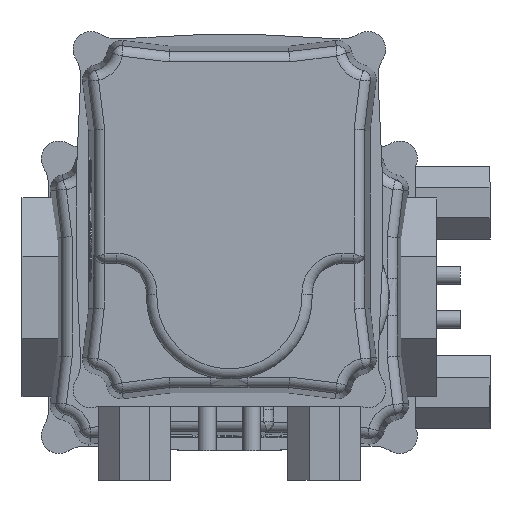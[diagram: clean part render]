
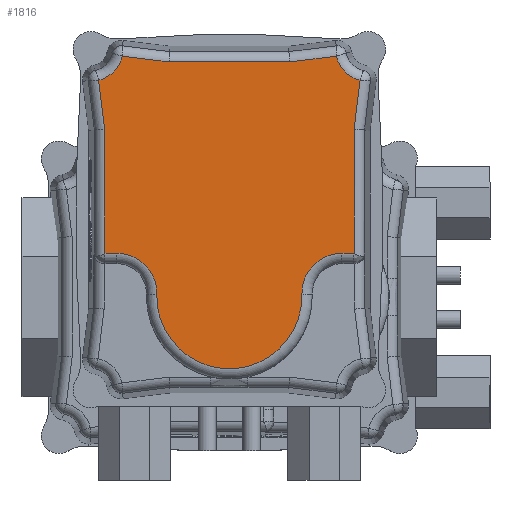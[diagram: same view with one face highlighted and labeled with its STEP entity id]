
A CAD part, top view. The second image highlights one B-rep face of the part: STEP entity #1816.
In plain terms, the highlighted planar face has unit normal (0, 0, 1).
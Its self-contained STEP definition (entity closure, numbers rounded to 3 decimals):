
#1816 = ADVANCED_FACE( '', ( #3851 ), #3852, .T. );
#3851 = FACE_OUTER_BOUND( '', #11624, .T. );
#3852 = PLANE( '', #11625 );
#11624 = EDGE_LOOP( '', ( #17599, #17600, #17601, #17602, #17603, #17604, #17605, #17606, #17607, #17608, #17609, #17610, #17611, #17612, #17613, #17614 ) );
#11625 = AXIS2_PLACEMENT_3D( '', #17615, #17616, #17617 );
#17599 = ORIENTED_EDGE( '', *, *, #20271, .T. );
#17600 = ORIENTED_EDGE( '', *, *, #19710, .T. );
#17601 = ORIENTED_EDGE( '', *, *, #20108, .T. );
#17602 = ORIENTED_EDGE( '', *, *, #20221, .T. );
#17603 = ORIENTED_EDGE( '', *, *, #20540, .T. );
#17604 = ORIENTED_EDGE( '', *, *, #20507, .T. );
#17605 = ORIENTED_EDGE( '', *, *, #20112, .T. );
#17606 = ORIENTED_EDGE( '', *, *, #20275, .T. );
#17607 = ORIENTED_EDGE( '', *, *, #20032, .T. );
#17608 = ORIENTED_EDGE( '', *, *, #19353, .T. );
#17609 = ORIENTED_EDGE( '', *, *, #20155, .T. );
#17610 = ORIENTED_EDGE( '', *, *, #20541, .T. );
#17611 = ORIENTED_EDGE( '', *, *, #20443, .T. );
#17612 = ORIENTED_EDGE( '', *, *, #20516, .T. );
#17613 = ORIENTED_EDGE( '', *, *, #19562, .T. );
#17614 = ORIENTED_EDGE( '', *, *, #20402, .T. );
#17615 = CARTESIAN_POINT( '', ( 47.227, -44.578, 84. ) );
#17616 = DIRECTION( '', ( 0., 0., 1. ) );
#17617 = DIRECTION( '', ( 1., 0., 0. ) );
#19353 = EDGE_CURVE( '', #22185, #22187, #22189, .F. );
#19562 = EDGE_CURVE( '', #22513, #20743, #22517, .F. );
#19710 = EDGE_CURVE( '', #22731, #22455, #22734, .T. );
#20032 = EDGE_CURVE( '', #23190, #22185, #23191, .T. );
#20108 = EDGE_CURVE( '', #22455, #23283, #23285, .F. );
#20112 = EDGE_CURVE( '', #23290, #23288, #23291, .T. );
#20155 = EDGE_CURVE( '', #22187, #23345, #23347, .T. );
#20221 = EDGE_CURVE( '', #23283, #23430, #23432, .T. );
#20271 = EDGE_CURVE( '', #23490, #22731, #23492, .T. );
#20275 = EDGE_CURVE( '', #23288, #23190, #23496, .F. );
#20402 = EDGE_CURVE( '', #20743, #23490, #23644, .T. );
#20443 = EDGE_CURVE( '', #23685, #23687, #23689, .T. );
#20507 = EDGE_CURVE( '', #23755, #23290, #23756, .T. );
#20516 = EDGE_CURVE( '', #23687, #22513, #23765, .T. );
#20540 = EDGE_CURVE( '', #23430, #23755, #23792, .T. );
#20541 = EDGE_CURVE( '', #23345, #23685, #23793, .T. );
#20743 = VERTEX_POINT( '', #24108 );
#22185 = VERTEX_POINT( '', #27459 );
#22187 = VERTEX_POINT( '', #27461 );
#22189 = CIRCLE( '', #27463, 13.5 );
#22455 = VERTEX_POINT( '', #28212 );
#22513 = VERTEX_POINT( '', #28368 );
#22517 = CIRCLE( '', #28391, 10.907 );
#22731 = VERTEX_POINT( '', #29626 );
#22734 = LINE( '', #29630, #29631 );
#23190 = VERTEX_POINT( '', #31243 );
#23191 = CIRCLE( '', #31244, 24.5 );
#23283 = VERTEX_POINT( '', #31620 );
#23285 = CIRCLE( '', #31641, 10.907 );
#23288 = VERTEX_POINT( '', #31644 );
#23290 = VERTEX_POINT( '', #31646 );
#23291 = LINE( '', #31647, #31648 );
#23345 = VERTEX_POINT( '', #31766 );
#23347 = LINE( '', #31768, #31769 );
#23430 = VERTEX_POINT( '', #31945 );
#23432 = LINE( '', #31947, #31948 );
#23490 = VERTEX_POINT( '', #32045 );
#23492 = LINE( '', #32047, #32048 );
#23496 = CIRCLE( '', #32055, 13.5 );
#23644 = LINE( '', #32422, #32423 );
#23685 = VERTEX_POINT( '', #32500 );
#23687 = VERTEX_POINT( '', #32523 );
#23689 = LINE( '', #32525, #32526 );
#23755 = VERTEX_POINT( '', #32611 );
#23756 = CIRCLE( '', #32612, 0.5 );
#23765 = LINE( '', #32645, #32646 );
#23792 = LINE( '', #32680, #32681 );
#23793 = CIRCLE( '', #32682, 0.5 );
#24108 = CARTESIAN_POINT( '', ( -55.033, 36.126, 84. ) );
#27459 = CARTESIAN_POINT( '', ( 25.355, 24.492, 84. ) );
#27461 = CARTESIAN_POINT( '', ( 11.5, 37.987, 84. ) );
#27463 = AXIS2_PLACEMENT_3D( '', #33732, #33733, #33734 );
#28212 = CARTESIAN_POINT( '', ( -55.033, -36.126, 84. ) );
#28368 = CARTESIAN_POINT( '', ( -46.913, 44.129, 84. ) );
#28391 = AXIS2_PLACEMENT_3D( '', #33851, #33852, #33853 );
#29626 = CARTESIAN_POINT( '', ( -53.093, -20.331, 84. ) );
#29630 = CARTESIAN_POINT( '', ( -54.536, -32.083, 84. ) );
#29631 = VECTOR( '', #33958, 1000. );
#31243 = CARTESIAN_POINT( '', ( 25.355, -24.492, 84. ) );
#31244 = AXIS2_PLACEMENT_3D( '', #34244, #34245, #34246 );
#31620 = CARTESIAN_POINT( '', ( -46.913, -44.129, 84. ) );
#31641 = AXIS2_PLACEMENT_3D( '', #34292, #34293, #34294 );
#31644 = CARTESIAN_POINT( '', ( 11.5, -37.987, 84. ) );
#31646 = CARTESIAN_POINT( '', ( 11.5, -42., 84. ) );
#31647 = CARTESIAN_POINT( '', ( 11.5, -44.578, 84. ) );
#31648 = VECTOR( '', #34301, 1000. );
#31766 = CARTESIAN_POINT( '', ( 11.5, 42., 84. ) );
#31768 = CARTESIAN_POINT( '', ( 11.5, -44.578, 84. ) );
#31769 = VECTOR( '', #34342, 1000. );
#31945 = CARTESIAN_POINT( '', ( -30.331, -42.093, 84. ) );
#31947 = CARTESIAN_POINT( '', ( 45.775, -32.749, 84. ) );
#31948 = VECTOR( '', #34384, 1000. );
#32045 = CARTESIAN_POINT( '', ( -53.093, 20.331, 84. ) );
#32047 = CARTESIAN_POINT( '', ( -53.093, -44.578, 84. ) );
#32048 = VECTOR( '', #34425, 1000. );
#32055 = AXIS2_PLACEMENT_3D( '', #34426, #34427, #34428 );
#32422 = CARTESIAN_POINT( '', ( -43.752, -55.749, 84. ) );
#32423 = VECTOR( '', #34517, 1000. );
#32500 = CARTESIAN_POINT( '', ( 11.491, 42.093, 84. ) );
#32523 = CARTESIAN_POINT( '', ( -30.331, 42.093, 84. ) );
#32525 = CARTESIAN_POINT( '', ( 47.227, 42.093, 84. ) );
#32526 = VECTOR( '', #34536, 1000. );
#32611 = CARTESIAN_POINT( '', ( 11.491, -42.093, 84. ) );
#32612 = AXIS2_PLACEMENT_3D( '', #34578, #34579, #34580 );
#32645 = CARTESIAN_POINT( '', ( 56.559, 31.425, 84. ) );
#32646 = VECTOR( '', #34583, 1000. );
#32680 = CARTESIAN_POINT( '', ( 47.227, -42.093, 84. ) );
#32681 = VECTOR( '', #34593, 1000. );
#32682 = AXIS2_PLACEMENT_3D( '', #34594, #34595, #34596 );
#33732 = CARTESIAN_POINT( '', ( 25., 37.987, 84. ) );
#33733 = DIRECTION( '', ( 0., 0., 1. ) );
#33734 = DIRECTION( '', ( 1., 0., 0. ) );
#33851 = CARTESIAN_POINT( '', ( -57.5, 46.75, 84. ) );
#33852 = DIRECTION( '', ( 0., 0., 1. ) );
#33853 = DIRECTION( '', ( 1., 0., 0. ) );
#33958 = DIRECTION( '', ( -0.122, -0.993, 0. ) );
#34244 = CARTESIAN_POINT( '', ( 26., 0., 84. ) );
#34245 = DIRECTION( '', ( 0., 0., 1. ) );
#34246 = DIRECTION( '', ( 1., 0., 0. ) );
#34292 = CARTESIAN_POINT( '', ( -57.5, -46.75, 84. ) );
#34293 = DIRECTION( '', ( 0., 0., 1. ) );
#34294 = DIRECTION( '', ( 1., 0., 0. ) );
#34301 = DIRECTION( '', ( 0., 1., 0. ) );
#34342 = DIRECTION( '', ( 0., 1., 0. ) );
#34384 = DIRECTION( '', ( 0.993, 0.122, 0. ) );
#34425 = DIRECTION( '', ( 0., -1., 0. ) );
#34426 = CARTESIAN_POINT( '', ( 25., -37.987, 84. ) );
#34427 = DIRECTION( '', ( 0., 0., 1. ) );
#34428 = DIRECTION( '', ( 1., 0., 0. ) );
#34517 = DIRECTION( '', ( 0.122, -0.993, 0. ) );
#34536 = DIRECTION( '', ( -1., 0., 0. ) );
#34578 = CARTESIAN_POINT( '', ( 11., -42., 84. ) );
#34579 = DIRECTION( '', ( 0., 0., 1. ) );
#34580 = DIRECTION( '', ( 1., 0., 0. ) );
#34583 = DIRECTION( '', ( -0.993, 0.122, 0. ) );
#34593 = DIRECTION( '', ( 1., 0., 0. ) );
#34594 = CARTESIAN_POINT( '', ( 11., 42., 84. ) );
#34595 = DIRECTION( '', ( 0., 0., 1. ) );
#34596 = DIRECTION( '', ( 1., 0., 0. ) );
